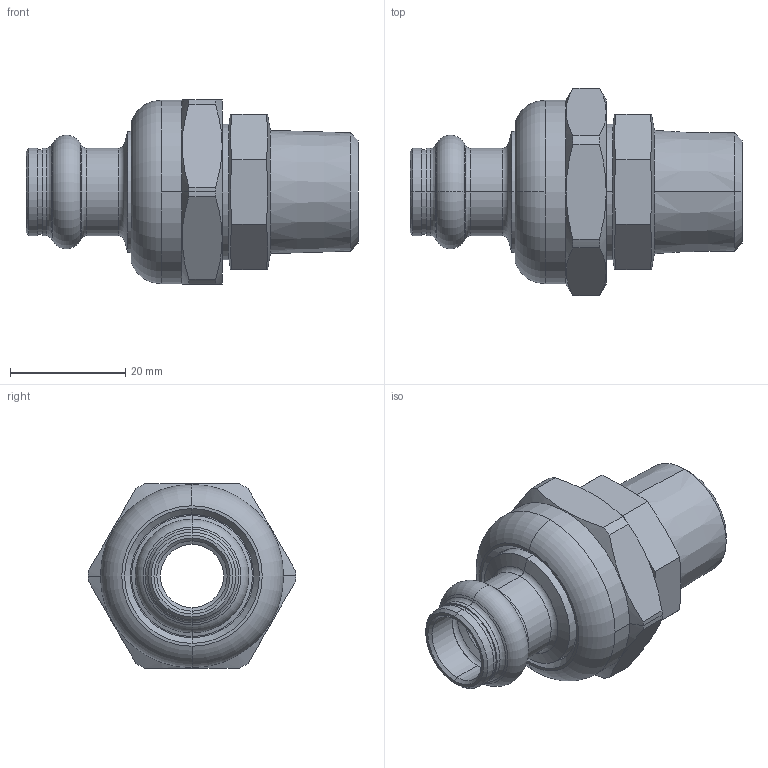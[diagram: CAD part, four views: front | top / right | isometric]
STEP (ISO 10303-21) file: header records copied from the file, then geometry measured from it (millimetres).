
FILE_DESCRIPTION (( 'STEP AP203' ), '1' );
FILE_NAME ('SP4331G Ø12 1-2.STEP', '2017-04-28T07:53:28', ( '' ), ( '' ), 'SwSTEP 2.0', 'SolidWorks 2016', '' );
FILE_SCHEMA (( 'CONFIG_CONTROL_DESIGN' ));
Length unit declared in the file: millimetre
Products named in the file (5): SP4383_1-2 3-4; SP4372_12; Ecrou à sertir_G3-4 JPG serti; Joints plats_3-4 pouce; SP4331G Ø12 1-2
Assembly tree (4 placements, depth 2):
  SP4331G Ø12 1-2
    SP4383_1-2 3-4
    SP4372_12
    Ecrou à sertir_G3-4 JPG serti
    Joints plats_3-4 pouce
Bounding box: 57.6 x 36 x 32 mm (x, y, z)
Volume: 17114.2 mm3; surface area: 12359.4 mm2
Topology: 4 solids, 4 shells, 143 faces, 311 edges, 181 vertices
Faces by surface type: cone 57, cylinder 45, plane 27, torus 14
Entity records: 4561 total; most frequent: CARTESIAN_POINT 864, DIRECTION 736, ORIENTED_EDGE 622, AXIS2_PLACEMENT_3D 313, EDGE_CURVE 311, VERTEX_POINT 181, CIRCLE 163, EDGE_LOOP 156
